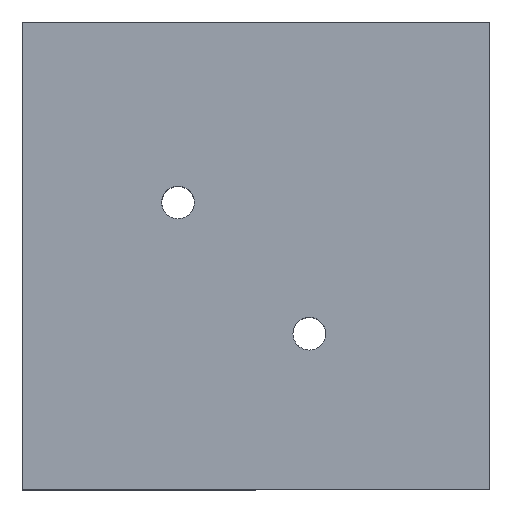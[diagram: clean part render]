
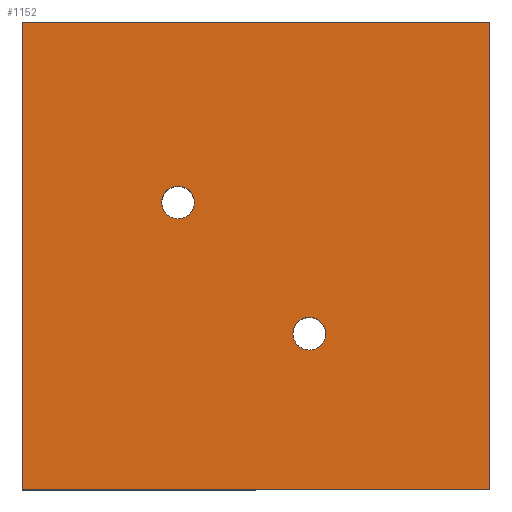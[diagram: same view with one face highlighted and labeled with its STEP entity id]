
A CAD part, top view. The second image highlights one B-rep face of the part: STEP entity #1152.
In plain terms, the highlighted planar face has unit normal (0, 0, 1).
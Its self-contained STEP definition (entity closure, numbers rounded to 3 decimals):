
#68 = EDGE_CURVE ( 'NONE', #963, #1073, #353, .T. ) ;
#103 = CARTESIAN_POINT ( 'NONE',  ( 14.25, -14.25, 8. ) ) ;
#110 = DIRECTION ( 'NONE',  ( 0., -1., 0. ) ) ;
#143 = CARTESIAN_POINT ( 'NONE',  ( 2.25, -4.75, 8. ) ) ;
#150 = DIRECTION ( 'NONE',  ( 1., 0., 0. ) ) ;
#151 = AXIS2_PLACEMENT_3D ( 'NONE', #1091, #159, #150 ) ;
#159 = DIRECTION ( 'NONE',  ( 0., 0., 1. ) ) ;
#168 = AXIS2_PLACEMENT_3D ( 'NONE', #821, #417, #1354 ) ;
#173 = CARTESIAN_POINT ( 'NONE',  ( -14.25, -14.25, 8. ) ) ;
#179 = CARTESIAN_POINT ( 'NONE',  ( -14.25, 14.25, 8. ) ) ;
#190 = CARTESIAN_POINT ( 'NONE',  ( -14.25, -14.25, 8. ) ) ;
#214 = LINE ( 'NONE', #1048, #374 ) ;
#216 = EDGE_CURVE ( 'NONE', #384, #546, #1224, .T. ) ;
#221 = DIRECTION ( 'NONE',  ( 0., 0., 1. ) ) ;
#253 = EDGE_LOOP ( 'NONE', ( #1210, #1199 ) ) ;
#256 = CIRCLE ( 'NONE', #718, 1. ) ;
#260 = EDGE_CURVE ( 'NONE', #299, #801, #280, .T. ) ;
#280 = LINE ( 'NONE', #190, #962 ) ;
#299 = VERTEX_POINT ( 'NONE', #173 ) ;
#320 = CARTESIAN_POINT ( 'NONE',  ( -3.75, 3.25, 8. ) ) ;
#323 = EDGE_LOOP ( 'NONE', ( #916, #665, #807, #622 ) ) ;
#331 = FACE_OUTER_BOUND ( 'NONE', #323, .T. ) ;
#346 = DIRECTION ( 'NONE',  ( 0., 0., 1. ) ) ;
#353 = LINE ( 'NONE', #455, #1029 ) ;
#374 = VECTOR ( 'NONE', #110, 1000. ) ;
#382 = VERTEX_POINT ( 'NONE', #528 ) ;
#384 = VERTEX_POINT ( 'NONE', #320 ) ;
#391 = CARTESIAN_POINT ( 'NONE',  ( -4.75, 3.25, 8. ) ) ;
#417 = DIRECTION ( 'NONE',  ( 0., 0., 1. ) ) ;
#424 = CARTESIAN_POINT ( 'NONE',  ( 3.25, -4.75, 8. ) ) ;
#455 = CARTESIAN_POINT ( 'NONE',  ( -14.25, 14.25, 8. ) ) ;
#528 = CARTESIAN_POINT ( 'NONE',  ( 4.25, -4.75, 8. ) ) ;
#546 = VERTEX_POINT ( 'NONE', #1211 ) ;
#622 = ORIENTED_EDGE ( 'NONE', *, *, #68, .T. ) ;
#623 = FACE_BOUND ( 'NONE', #754, .T. ) ;
#625 = DIRECTION ( 'NONE',  ( 1., 0., 0. ) ) ;
#639 = FACE_BOUND ( 'NONE', #253, .T. ) ;
#647 = EDGE_CURVE ( 'NONE', #546, #384, #767, .T. ) ;
#665 = ORIENTED_EDGE ( 'NONE', *, *, #260, .T. ) ;
#718 = AXIS2_PLACEMENT_3D ( 'NONE', #424, #221, #1038 ) ;
#730 = DIRECTION ( 'NONE',  ( 0., 1., 0. ) ) ;
#754 = EDGE_LOOP ( 'NONE', ( #1120, #1227 ) ) ;
#761 = DIRECTION ( 'NONE',  ( -1., 0., 0. ) ) ;
#767 = CIRCLE ( 'NONE', #1160, 1. ) ;
#798 = EDGE_CURVE ( 'NONE', #831, #382, #1005, .T. ) ;
#801 = VERTEX_POINT ( 'NONE', #103 ) ;
#802 = DIRECTION ( 'NONE',  ( 0., 0., 1. ) ) ;
#806 = CARTESIAN_POINT ( 'NONE',  ( 14.25, 14.25, 8. ) ) ;
#807 = ORIENTED_EDGE ( 'NONE', *, *, #1256, .T. ) ;
#821 = CARTESIAN_POINT ( 'NONE',  ( 0., 0., 8. ) ) ;
#831 = VERTEX_POINT ( 'NONE', #143 ) ;
#843 = LINE ( 'NONE', #849, #1310 ) ;
#849 = CARTESIAN_POINT ( 'NONE',  ( 14.25, 14.25, 8. ) ) ;
#900 = AXIS2_PLACEMENT_3D ( 'NONE', #1278, #346, #625 ) ;
#916 = ORIENTED_EDGE ( 'NONE', *, *, #1351, .T. ) ;
#930 = PLANE ( 'NONE',  #168 ) ;
#962 = VECTOR ( 'NONE', #1237, 1000. ) ;
#963 = VERTEX_POINT ( 'NONE', #806 ) ;
#1005 = CIRCLE ( 'NONE', #900, 1. ) ;
#1029 = VECTOR ( 'NONE', #761, 1000. ) ;
#1038 = DIRECTION ( 'NONE',  ( 1., 0., 0. ) ) ;
#1048 = CARTESIAN_POINT ( 'NONE',  ( -14.25, 14.25, 8. ) ) ;
#1073 = VERTEX_POINT ( 'NONE', #179 ) ;
#1091 = CARTESIAN_POINT ( 'NONE',  ( -4.75, 3.25, 8. ) ) ;
#1109 = EDGE_CURVE ( 'NONE', #382, #831, #256, .T. ) ;
#1120 = ORIENTED_EDGE ( 'NONE', *, *, #1109, .F. ) ;
#1152 = ADVANCED_FACE ( 'NONE', ( #623, #639, #331 ), #930, .T. ) ;
#1160 = AXIS2_PLACEMENT_3D ( 'NONE', #391, #802, #1219 ) ;
#1199 = ORIENTED_EDGE ( 'NONE', *, *, #647, .F. ) ;
#1210 = ORIENTED_EDGE ( 'NONE', *, *, #216, .F. ) ;
#1211 = CARTESIAN_POINT ( 'NONE',  ( -5.75, 3.25, 8. ) ) ;
#1219 = DIRECTION ( 'NONE',  ( 1., 0., 0. ) ) ;
#1224 = CIRCLE ( 'NONE', #151, 1. ) ;
#1227 = ORIENTED_EDGE ( 'NONE', *, *, #798, .F. ) ;
#1237 = DIRECTION ( 'NONE',  ( 1., 0., 0. ) ) ;
#1256 = EDGE_CURVE ( 'NONE', #801, #963, #843, .T. ) ;
#1278 = CARTESIAN_POINT ( 'NONE',  ( 3.25, -4.75, 8. ) ) ;
#1310 = VECTOR ( 'NONE', #730, 1000. ) ;
#1351 = EDGE_CURVE ( 'NONE', #1073, #299, #214, .T. ) ;
#1354 = DIRECTION ( 'NONE',  ( 1., 0., 0. ) ) ;
